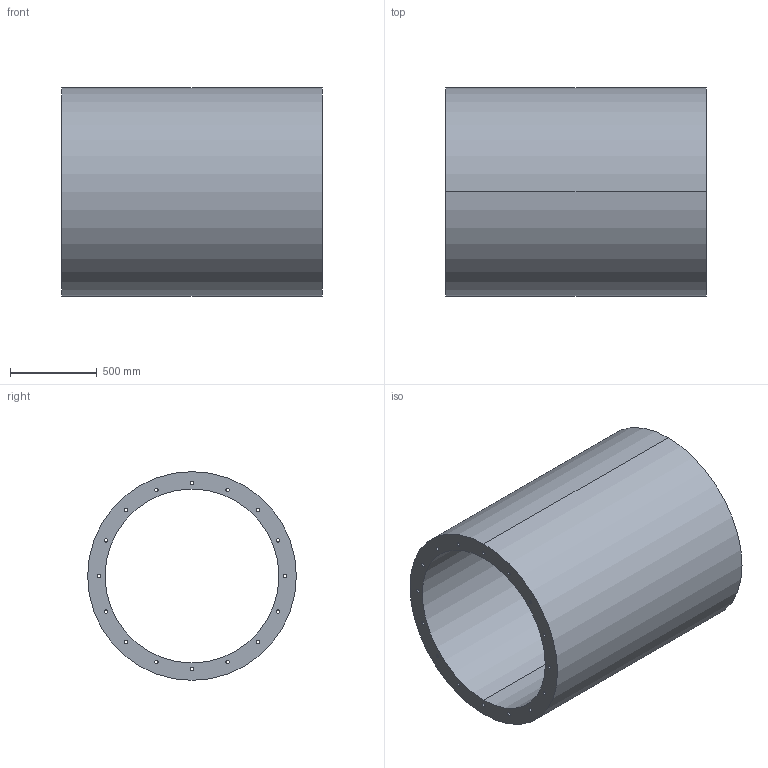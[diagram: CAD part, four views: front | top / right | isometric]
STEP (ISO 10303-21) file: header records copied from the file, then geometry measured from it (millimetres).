
FILE_DESCRIPTION(('STEP AP214'),'1');
FILE_NAME('accessory_5211812700.stp','2017-05-19T13:27:28',('TraceParts'),('TraceParts S.A.'),'Spatial InterOp 3D',' ',' ');
FILE_SCHEMA(('automotive_design'));
Length unit declared in the file: millimetre
Products named in the file (1): accessory_5211812700
Bounding box: 1500 x 1200 x 1200 mm (x, y, z)
Volume: 510822965.5 mm3; surface area: 12556317.5 mm2
Topology: 1 solids, 1 shells, 38 faces, 108 edges, 72 vertices
Faces by surface type: cylinder 36, plane 2
Entity records: 1672 total; most frequent: DIRECTION 258, CARTESIAN_POINT 219, ORIENTED_EDGE 216, AXIS2_PLACEMENT_3D 111, EDGE_CURVE 108, EDGE_LOOP 72, VERTEX_POINT 72, CIRCLE 72
